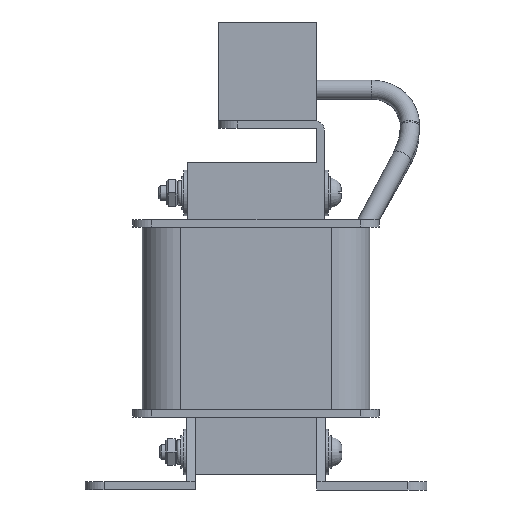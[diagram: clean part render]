
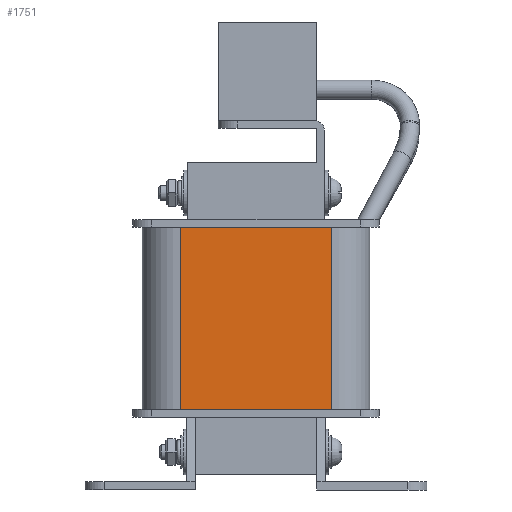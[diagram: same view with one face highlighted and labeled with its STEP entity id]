
A CAD part, left-side view. The second image highlights one B-rep face of the part: STEP entity #1751.
In plain terms, the highlighted planar face has unit normal (-1, 0, 0).
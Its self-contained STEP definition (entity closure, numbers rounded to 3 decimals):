
#1751=ADVANCED_FACE('',(#2273),#2275,.T.);
#2273=FACE_BOUND('',#2274,.T.);
#2274=EDGE_LOOP('',(#3805,#3806,#3807,#3808));
#2275=PLANE('',#2276);
#2276=AXIS2_PLACEMENT_3D('',#2277,#2278,#2279);
#2277=CARTESIAN_POINT('',(-17.,20.,0.));
#2278=DIRECTION('',(-1.,0.,0.));
#2279=DIRECTION('',(0.,-1.,0.));
#3805=ORIENTED_EDGE('',*,*,#4546,.T.);
#3806=ORIENTED_EDGE('',*,*,#4547,.T.);
#3807=ORIENTED_EDGE('',*,*,#4548,.F.);
#3808=ORIENTED_EDGE('',*,*,#4544,.F.);
#4544=EDGE_CURVE('',#5042,#5044,#5045,.T.);
#4546=EDGE_CURVE('',#5042,#5047,#5048,.T.);
#4547=EDGE_CURVE('',#5047,#5049,#5050,.T.);
#4548=EDGE_CURVE('',#5044,#5049,#5051,.T.);
#5042=VERTEX_POINT('',#6020);
#5044=VERTEX_POINT('',#6025);
#5045=LINE('',#6026,#6027);
#5047=VERTEX_POINT('',#6033);
#5048=LINE('',#6034,#6035);
#5049=VERTEX_POINT('',#6037);
#5050=LINE('',#6038,#6039);
#5051=LINE('',#6041,#6042);
#6020=CARTESIAN_POINT('',(-17.,20.,0.));
#6025=CARTESIAN_POINT('',(-17.,20.,48.));
#6026=CARTESIAN_POINT('',(-17.,20.,0.));
#6027=VECTOR('',#6028,1.);
#6028=DIRECTION('',(0.,0.,1.));
#6033=CARTESIAN_POINT('',(-17.,-20.,0.));
#6034=CARTESIAN_POINT('',(-17.,20.,0.));
#6035=VECTOR('',#6036,1.);
#6036=DIRECTION('',(0.,-1.,0.));
#6037=CARTESIAN_POINT('',(-17.,-20.,48.));
#6038=CARTESIAN_POINT('',(-17.,-20.,0.));
#6039=VECTOR('',#6040,1.);
#6040=DIRECTION('',(0.,0.,1.));
#6041=CARTESIAN_POINT('',(-17.,20.,48.));
#6042=VECTOR('',#6043,1.);
#6043=DIRECTION('',(0.,-1.,0.));
